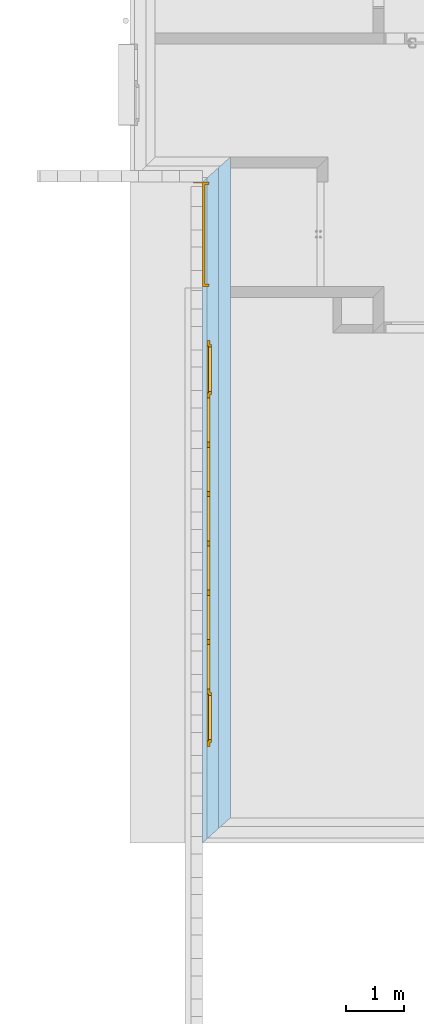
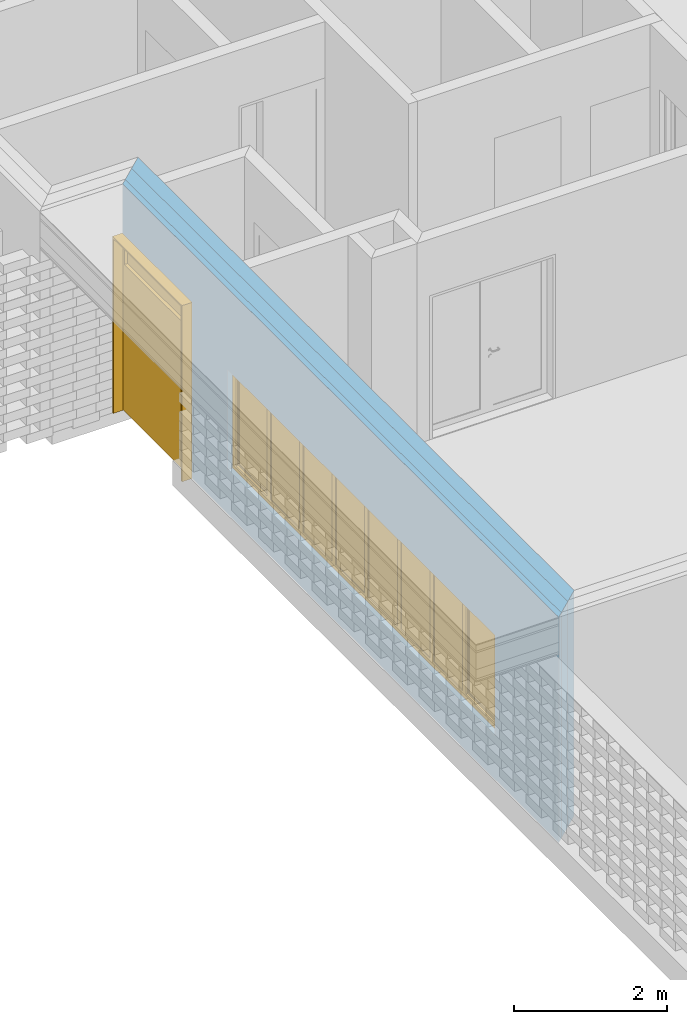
# One storey, part 33 of 62: 1 door, 1 window, 2 openings, 1 element without a shape of its own, plus 3 elements that do not belong to this part.
"""IFC2X3 building model written with IfcOpenShell, lengths in millimetres."""

from ifc_helpers import new_model, entity, si_unit, converted_unit, derived_unit, money_unit, direction, frame, origin_with_axes, origin_2d_with_axis, place, context, subcontext, project, spatial, polyline, rectangle, outline, extrude, open_shell, faceted_brep, surface_model, material, type_object, element, fill, aggregate, save


model = new_model("IFC2X3")

# Units and contexts
model_context = context("Model", 3, precision=0.01, world=origin_with_axes(), true_north=direction((0.0, 1.0)))
body_context = subcontext(model_context, "Body", "Model", "MODEL_VIEW")
ifc_project = project(units=[si_unit("LENGTHUNIT", "METRE", prefix="MILLI"), si_unit("AREAUNIT", "SQUARE_METRE"), si_unit("VOLUMEUNIT", "CUBIC_METRE"), converted_unit("PLANEANGLEUNIT", "DEGREE", entity("IfcPlaneAngleMeasure", 0.0174532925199), si_unit("PLANEANGLEUNIT", "RADIAN"), dimensions=[0, 0, 0, 0, 0, 0, 0]), si_unit("SOLIDANGLEUNIT", "STERADIAN"), money_unit("EUR"), converted_unit("TIMEUNIT", "Year", entity("IfcTimeMeasure", 31556926.0), si_unit("TIMEUNIT", "SECOND"), dimensions=[0, 0, 1, 0, 0, 0, 0]), si_unit("MASSUNIT", "GRAM", prefix="KILO"), si_unit("THERMODYNAMICTEMPERATUREUNIT", "DEGREE_CELSIUS"), si_unit("LUMINOUSINTENSITYUNIT", "LUMEN"), si_unit("ENERGYUNIT", "JOULE", prefix="MEGA"), derived_unit("THERMALCONDUCTANCEUNIT", [(si_unit("POWERUNIT", "WATT"), 1), (si_unit("LENGTHUNIT", "METRE"), -1), (si_unit("THERMODYNAMICTEMPERATUREUNIT", "KELVIN"), -1)]), derived_unit("SPECIFICHEATCAPACITYUNIT", [(si_unit("ENERGYUNIT", "JOULE"), 1), (si_unit("MASSUNIT", "GRAM", prefix="KILO"), -1), (si_unit("THERMODYNAMICTEMPERATUREUNIT", "KELVIN"), -1)]), derived_unit("MASSDENSITYUNIT", [(si_unit("MASSUNIT", "GRAM", prefix="KILO"), 1), (si_unit("VOLUMEUNIT", "CUBIC_METRE"), -1)])], contexts=[model_context])

# Site, building, storey
site_placement = place(None, origin_with_axes())
site = spatial("IfcSite", under=ifc_project, at=site_placement, Name="KIRDE 14, ELVA", CompositionType="ELEMENT")
building_placement = place(site_placement, origin_with_axes())
building = spatial("IfcBuilding", under=site, at=building_placement, Name="PPA ja Päästeameti ühishoone", CompositionType="ELEMENT")
storey_placement = place(building_placement, origin_with_axes())
storey = spatial("IfcBuildingStorey", under=building, at=storey_placement, Name="Esimene korrus", CompositionType="ELEMENT", Elevation=0.0)

# Window
window_style = type_object("IfcWindowStyle", Name="Horizontal Multi-Sash Window 24", ConstructionType="NOTDEFINED", OperationType="USERDEFINED", ParameterTakesPrecedence=False, Sizeable=False)
wall_placement = place(storey_placement, frame((1300.00014324, -2.18278728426e-08, 0.0), z_axis=(0.0, 0.0, 1.0), x_axis=(0.0, 1.0, 0.0)))
opening_1_placement = place(wall_placement, frame((4735.60799175, 0.0, 700.0), z_axis=(0.0, 0.0, 1.0), x_axis=(1.0, 0.0, 0.0)))
window_placement = place(opening_1_placement, frame((3500.0, 0.0, 0.0), z_axis=(0.0, 0.0, 1.0), x_axis=(-1.0, 0.0, 0.0)))
window = element("IfcWindow", 1, at=window_placement, inside=storey, type_object=window_style, Name="A-11", ObjectType="WINDOW", OverallHeight=1600.0, OverallWidth=7000.0, context=body_context, shape_type="SurfaceModel", body=[
    faceted_brep([(6935.0, -350.0, 1510.0), (6935.0, -375.0, 1510.0), (6910.0, -375.0, 1510.0), (6910.0, -400.0, 1510.0), (7000.0, -400.0, 1510.0), (7000.0, -350.0, 1510.0), (6935.0, -350.0, 90.0), (6935.0, -375.0, 90.0), (6910.0, -375.0, 90.0), (6910.0, -400.0, 90.0), (7000.0, -400.0, 90.0), (7000.0, -350.0, 90.0)], [[[0, 1, 2, 3, 4, 5]], [[1, 0, 6, 7]], [[8, 2, 1, 7]], [[2, 8, 9, 3]], [[4, 3, 9, 10]], [[5, 4, 10, 11]], [[6, 0, 5, 11]], [[7, 6, 11, 10, 9, 8]]]),
    faceted_brep([(90.0, -375.0, 1510.0), (65.0, -375.0, 1510.0), (65.0, -350.0, 1510.0), (0.0, -350.0, 1510.0), (0.0, -400.0, 1510.0), (90.0, -400.0, 1510.0), (90.0, -375.0, 90.0), (65.0, -375.0, 90.0), (65.0, -350.0, 90.0), (0.0, -350.0, 90.0), (0.0, -400.0, 90.0), (90.0, -400.0, 90.0)], [[[0, 1, 2, 3, 4, 5]], [[1, 0, 6, 7]], [[8, 2, 1, 7]], [[2, 8, 9, 3]], [[9, 10, 4, 3]], [[10, 11, 5, 4]], [[6, 0, 5, 11]], [[7, 6, 11, 10, 9, 8]]]),
    faceted_brep([(6935.0, -350.0, 1510.0), (6935.0, -350.0, 1535.0), (6073.75, -350.0, 1535.0), (6073.75, -350.0, 1510.0), (6008.75, -350.0, 1510.0), (5247.5, -350.0, 1510.0), (5157.5, -350.0, 1510.0), (4396.25, -350.0, 1510.0), (4306.25, -350.0, 1510.0), (3545.0, -350.0, 1510.0), (3455.0, -350.0, 1510.0), (2693.75, -350.0, 1510.0), (2603.75, -350.0, 1510.0), (1842.5, -350.0, 1510.0), (1752.5, -350.0, 1510.0), (991.25, -350.0, 1510.0), (926.25, -350.0, 1510.0), (926.25, -350.0, 1535.0), (65.0, -350.0, 1535.0), (65.0, -350.0, 1510.0), (0.0, -350.0, 1510.0), (0.0, -350.0, 1600.0), (7000.0, -350.0, 1600.0), (7000.0, -350.0, 1510.0), (6935.0, -375.0, 1510.0), (6935.0, -375.0, 1535.0), (6073.75, -375.0, 1535.0), (6073.75, -375.0, 1510.0), (6098.75, -375.0, 1510.0), (6098.75, -400.0, 1510.0), (6008.75, -400.0, 1510.0), (5247.5, -400.0, 1510.0), (5157.5, -400.0, 1510.0), (4396.25, -400.0, 1510.0), (4306.25, -400.0, 1510.0), (3545.0, -400.0, 1510.0), (3455.0, -400.0, 1510.0), (2693.75, -400.0, 1510.0), (2603.75, -400.0, 1510.0), (1842.5, -400.0, 1510.0), (1752.5, -400.0, 1510.0), (991.25, -400.0, 1510.0), (926.25, -375.0, 1510.0), (901.25, -400.0, 1510.0), (901.25, -375.0, 1510.0), (926.25, -375.0, 1535.0), (65.0, -375.0, 1535.0), (65.0, -375.0, 1510.0), (90.0, -375.0, 1510.0), (90.0, -400.0, 1510.0), (0.0, -400.0, 1510.0), (0.0, -400.0, 1600.0), (7000.0, -400.0, 1600.0), (7000.0, -400.0, 1510.0), (6910.0, -400.0, 1510.0), (6910.0, -375.0, 1510.0)], [[[0, 1, 2, 3, 4, 5, 6, 7, 8, 9, 10, 11, 12, 13, 14, 15, 16, 17, 18, 19, 20, 21, 22, 23]], [[1, 0, 24, 25]], [[2, 1, 25, 26]], [[3, 2, 26, 27]], [[27, 28, 29, 30, 4, 3]], [[4, 30, 31, 5]], [[5, 31, 32, 6]], [[6, 32, 33, 7]], [[7, 33, 34, 8]], [[8, 34, 35, 9]], [[9, 35, 36, 10]], [[10, 36, 37, 11]], [[11, 37, 38, 12]], [[12, 38, 39, 13]], [[13, 39, 40, 14]], [[14, 40, 41, 15]], [[42, 16, 15, 41, 43, 44]], [[17, 16, 42, 45]], [[18, 17, 45, 46]], [[19, 18, 46, 47]], [[47, 48, 49, 50, 20, 19]], [[20, 50, 51, 21]], [[21, 51, 52, 22]], [[22, 52, 53, 23]], [[24, 0, 23, 53, 54, 55]], [[28, 27, 26, 25, 24, 55]], [[28, 55, 54, 29]], [[50, 49, 43, 41, 40, 39, 38, 37, 36, 35, 34, 33, 32, 31, 30, 29, 54, 53, 52, 51]], [[48, 44, 43, 49]], [[48, 47, 46, 45, 42, 44]]]),
    faceted_brep([(6098.75, -375.0, 90.0), (6073.75, -375.0, 90.0), (6073.75, -350.0, 90.0), (6008.75, -350.0, 90.0), (6008.75, -400.0, 90.0), (6098.75, -400.0, 90.0), (6910.0, -375.0, 90.0), (6935.0, -375.0, 90.0), (6935.0, -375.0, 65.0), (6073.75, -375.0, 65.0), (6073.75, -350.0, 65.0), (6935.0, -350.0, 65.0), (6935.0, -350.0, 90.0), (7000.0, -350.0, 90.0), (7000.0, -350.0, 0.0), (0.0, -350.0, 0.0), (0.0, -350.0, 90.0), (65.0, -350.0, 90.0), (65.0, -350.0, 65.0), (926.25, -350.0, 65.0), (926.25, -350.0, 90.0), (991.25, -350.0, 90.0), (1752.5, -350.0, 90.0), (1842.5, -350.0, 90.0), (2603.75, -350.0, 90.0), (2693.75, -350.0, 90.0), (3455.0, -350.0, 90.0), (3545.0, -350.0, 90.0), (4306.25, -350.0, 90.0), (4396.25, -350.0, 90.0), (5157.5, -350.0, 90.0), (5247.5, -350.0, 90.0), (5247.5, -400.0, 90.0), (991.25, -400.0, 90.0), (901.25, -400.0, 90.0), (90.0, -400.0, 90.0), (0.0, -400.0, 90.0), (0.0, -400.0, 0.0), (7000.0, -400.0, 0.0), (7000.0, -400.0, 90.0), (6910.0, -400.0, 90.0), (5157.5, -400.0, 90.0), (4396.25, -400.0, 90.0), (4306.25, -400.0, 90.0), (3545.0, -400.0, 90.0), (3455.0, -400.0, 90.0), (2693.75, -400.0, 90.0), (2603.75, -400.0, 90.0), (1842.5, -400.0, 90.0), (1752.5, -400.0, 90.0), (90.0, -375.0, 90.0), (65.0, -375.0, 90.0), (65.0, -375.0, 65.0), (926.25, -375.0, 65.0), (926.25, -375.0, 90.0), (901.25, -375.0, 90.0)], [[[0, 1, 2, 3, 4, 5]], [[1, 0, 6, 7, 8, 9]], [[10, 2, 1, 9]], [[11, 12, 13, 14, 15, 16, 17, 18, 19, 20, 21, 22, 23, 24, 25, 26, 27, 28, 29, 30, 31, 3, 2, 10]], [[31, 32, 4, 3]], [[33, 34, 35, 36, 37, 38, 39, 40, 5, 4, 32, 41, 42, 43, 44, 45, 46, 47, 48, 49]], [[6, 0, 5, 40]], [[7, 6, 40, 39, 13, 12]], [[7, 12, 11, 8]], [[11, 10, 9, 8]], [[13, 39, 38, 14]], [[14, 38, 37, 15]], [[15, 37, 36, 16]], [[50, 51, 17, 16, 36, 35]], [[18, 17, 51, 52]], [[19, 18, 52, 53]], [[54, 20, 19, 53]], [[54, 55, 34, 33, 21, 20]], [[21, 33, 49, 22]], [[22, 49, 48, 23]], [[23, 48, 47, 24]], [[24, 47, 46, 25]], [[25, 46, 45, 26]], [[26, 45, 44, 27]], [[27, 44, 43, 28]], [[28, 43, 42, 29]], [[29, 42, 41, 30]], [[30, 41, 32, 31]], [[55, 50, 35, 34]], [[51, 50, 55, 54, 53, 52]]]),
    faceted_brep([(6098.75, -375.0, 1510.0), (6073.75, -375.0, 1510.0), (6073.75, -350.0, 1510.0), (6008.75, -350.0, 1510.0), (6008.75, -400.0, 1510.0), (6098.75, -400.0, 1510.0), (6098.75, -375.0, 90.0), (6073.75, -375.0, 90.0), (6073.75, -350.0, 90.0), (6008.75, -350.0, 90.0), (6008.75, -400.0, 90.0), (6098.75, -400.0, 90.0)], [[[0, 1, 2, 3, 4, 5]], [[1, 0, 6, 7]], [[8, 2, 1, 7]], [[2, 8, 9, 3]], [[9, 10, 4, 3]], [[4, 10, 11, 5]], [[6, 0, 5, 11]], [[7, 6, 11, 10, 9, 8]]]),
    faceted_brep([(5157.5, -350.0, 90.0), (5157.5, -400.0, 90.0), (5157.5, -400.0, 1510.0), (5157.5, -350.0, 1510.0), (5247.5, -350.0, 90.0), (5247.5, -400.0, 90.0), (5247.5, -400.0, 1510.0), (5247.5, -350.0, 1510.0)], [[[0, 1, 2, 3]], [[4, 5, 1, 0]], [[2, 1, 5, 6]], [[3, 2, 6, 7]], [[4, 0, 3, 7]], [[7, 6, 5, 4]]]),
    faceted_brep([(4306.25, -350.0, 90.0), (4306.25, -400.0, 90.0), (4306.25, -400.0, 1510.0), (4306.25, -350.0, 1510.0), (4396.25, -350.0, 90.0), (4396.25, -400.0, 90.0), (4396.25, -400.0, 1510.0), (4396.25, -350.0, 1510.0)], [[[0, 1, 2, 3]], [[4, 5, 1, 0]], [[2, 1, 5, 6]], [[3, 2, 6, 7]], [[4, 0, 3, 7]], [[7, 6, 5, 4]]]),
    faceted_brep([(3455.0, -350.0, 90.0), (3455.0, -400.0, 90.0), (3455.0, -400.0, 1510.0), (3455.0, -350.0, 1510.0), (3545.0, -350.0, 90.0), (3545.0, -400.0, 90.0), (3545.0, -400.0, 1510.0), (3545.0, -350.0, 1510.0)], [[[0, 1, 2, 3]], [[4, 5, 1, 0]], [[2, 1, 5, 6]], [[3, 2, 6, 7]], [[4, 0, 3, 7]], [[7, 6, 5, 4]]]),
    faceted_brep([(2603.75, -350.0, 90.0), (2603.75, -400.0, 90.0), (2603.75, -400.0, 1510.0), (2603.75, -350.0, 1510.0), (2693.75, -350.0, 90.0), (2693.75, -400.0, 90.0), (2693.75, -400.0, 1510.0), (2693.75, -350.0, 1510.0)], [[[0, 1, 2, 3]], [[4, 5, 1, 0]], [[2, 1, 5, 6]], [[3, 2, 6, 7]], [[4, 0, 3, 7]], [[7, 6, 5, 4]]]),
    faceted_brep([(1752.5, -350.0, 90.0), (1752.5, -400.0, 90.0), (1752.5, -400.0, 1510.0), (1752.5, -350.0, 1510.0), (1842.5, -350.0, 90.0), (1842.5, -400.0, 90.0), (1842.5, -400.0, 1510.0), (1842.5, -350.0, 1510.0)], [[[0, 1, 2, 3]], [[4, 5, 1, 0]], [[2, 1, 5, 6]], [[3, 2, 6, 7]], [[4, 0, 3, 7]], [[7, 6, 5, 4]]]),
    faceted_brep([(926.25, -350.0, 1510.0), (926.25, -375.0, 1510.0), (901.25, -375.0, 1510.0), (901.25, -400.0, 1510.0), (991.25, -400.0, 1510.0), (991.25, -350.0, 1510.0), (926.25, -350.0, 90.0), (926.25, -375.0, 90.0), (901.25, -375.0, 90.0), (901.25, -400.0, 90.0), (991.25, -400.0, 90.0), (991.25, -350.0, 90.0)], [[[0, 1, 2, 3, 4, 5]], [[1, 0, 6, 7]], [[8, 2, 1, 7]], [[2, 8, 9, 3]], [[3, 9, 10, 4]], [[5, 4, 10, 11]], [[6, 0, 5, 11]], [[7, 6, 11, 10, 9, 8]]]),
    faceted_brep([(6885.0, -375.0, 1485.0), (6935.0, -375.0, 1485.0), (6935.0, -325.0, 1485.0), (6885.0, -325.0, 1485.0), (6885.0, -375.0, 115.0), (6935.0, -375.0, 115.0), (6935.0, -325.0, 115.0), (6885.0, -325.0, 115.0)], [[[0, 1, 2, 3]], [[0, 4, 5, 1]], [[1, 5, 6, 2]], [[3, 2, 6, 7]], [[4, 0, 3, 7]], [[5, 4, 7, 6]]]),
    faceted_brep([(6123.75, -375.0, 115.0), (6073.75, -375.0, 115.0), (6073.75, -325.0, 115.0), (6123.75, -325.0, 115.0), (6123.75, -375.0, 1485.0), (6073.75, -375.0, 1485.0), (6073.75, -325.0, 1485.0), (6123.75, -325.0, 1485.0)], [[[0, 1, 2, 3]], [[0, 4, 5, 1]], [[1, 5, 6, 2]], [[3, 2, 6, 7]], [[4, 0, 3, 7]], [[5, 4, 7, 6]]]),
    faceted_brep([(6073.75, -375.0, 65.0), (6073.75, -375.0, 115.0), (6073.75, -325.0, 115.0), (6073.75, -325.0, 65.0), (6935.0, -375.0, 65.0), (6935.0, -375.0, 115.0), (6885.0, -375.0, 115.0), (6123.75, -375.0, 115.0), (6123.75, -325.0, 115.0), (6885.0, -325.0, 115.0), (6935.0, -325.0, 115.0), (6935.0, -325.0, 65.0)], [[[0, 1, 2, 3]], [[0, 4, 5, 6, 7, 1]], [[1, 7, 8, 2]], [[3, 2, 8, 9, 10, 11]], [[4, 0, 3, 11]], [[5, 4, 11, 10]], [[6, 5, 10, 9]], [[7, 6, 9, 8]]]),
    faceted_brep([(6935.0, -375.0, 1535.0), (6935.0, -375.0, 1485.0), (6935.0, -325.0, 1485.0), (6935.0, -325.0, 1535.0), (6073.75, -375.0, 1535.0), (6073.75, -375.0, 1485.0), (6123.75, -375.0, 1485.0), (6885.0, -375.0, 1485.0), (6885.0, -325.0, 1485.0), (6123.75, -325.0, 1485.0), (6073.75, -325.0, 1485.0), (6073.75, -325.0, 1535.0)], [[[0, 1, 2, 3]], [[0, 4, 5, 6, 7, 1]], [[1, 7, 8, 2]], [[3, 2, 8, 9, 10, 11]], [[4, 0, 3, 11]], [[5, 4, 11, 10]], [[6, 5, 10, 9]], [[7, 6, 9, 8]]]),
    surface_model("IfcShellBasedSurfaceModel", [(6885.0, -360.0, 115.0), (6885.0, -360.0, 1485.0), (6123.75, -360.0, 1485.0), (6123.75, -360.0, 115.0)], [open_shell([[[0, 1, 2, 3]]])]),
    surface_model("IfcShellBasedSurfaceModel", [(6885.0, -340.0, 115.0), (6123.75, -340.0, 115.0), (6123.75, -340.0, 1485.0), (6885.0, -340.0, 1485.0)], [open_shell([[[0, 1, 2, 3]]])]),
    surface_model("IfcShellBasedSurfaceModel", [(6008.75, -385.0, 90.0), (6008.75, -385.0, 1510.0), (5247.5, -385.0, 1510.0), (5247.5, -385.0, 90.0)], [open_shell([[[0, 1, 2, 3]]])]),
    surface_model("IfcShellBasedSurfaceModel", [(6008.75, -365.0, 90.0), (5247.5, -365.0, 90.0), (5247.5, -365.0, 1510.0), (6008.75, -365.0, 1510.0)], [open_shell([[[0, 1, 2, 3]]])]),
    surface_model("IfcShellBasedSurfaceModel", [(5157.5, -385.0, 90.0), (5157.5, -385.0, 1510.0), (4396.25, -385.0, 1510.0), (4396.25, -385.0, 90.0)], [open_shell([[[0, 1, 2, 3]]])]),
    surface_model("IfcShellBasedSurfaceModel", [(5157.5, -365.0, 90.0), (4396.25, -365.0, 90.0), (4396.25, -365.0, 1510.0), (5157.5, -365.0, 1510.0)], [open_shell([[[0, 1, 2, 3]]])]),
    surface_model("IfcShellBasedSurfaceModel", [(4306.25, -385.0, 90.0), (4306.25, -385.0, 1510.0), (3545.0, -385.0, 1510.0), (3545.0, -385.0, 90.0)], [open_shell([[[0, 1, 2, 3]]])]),
    surface_model("IfcShellBasedSurfaceModel", [(4306.25, -365.0, 90.0), (3545.0, -365.0, 90.0), (3545.0, -365.0, 1510.0), (4306.25, -365.0, 1510.0)], [open_shell([[[0, 1, 2, 3]]])]),
    surface_model("IfcShellBasedSurfaceModel", [(3455.0, -385.0, 90.0), (3455.0, -385.0, 1510.0), (2693.75, -385.0, 1510.0), (2693.75, -385.0, 90.0)], [open_shell([[[0, 1, 2, 3]]])]),
    surface_model("IfcShellBasedSurfaceModel", [(3455.0, -365.0, 90.0), (2693.75, -365.0, 90.0), (2693.75, -365.0, 1510.0), (3455.0, -365.0, 1510.0)], [open_shell([[[0, 1, 2, 3]]])]),
    surface_model("IfcShellBasedSurfaceModel", [(2603.75, -385.0, 90.0), (2603.75, -385.0, 1510.0), (1842.5, -385.0, 1510.0), (1842.5, -385.0, 90.0)], [open_shell([[[0, 1, 2, 3]]])]),
    surface_model("IfcShellBasedSurfaceModel", [(2603.75, -365.0, 90.0), (1842.5, -365.0, 90.0), (1842.5, -365.0, 1510.0), (2603.75, -365.0, 1510.0)], [open_shell([[[0, 1, 2, 3]]])]),
    surface_model("IfcShellBasedSurfaceModel", [(1752.5, -385.0, 90.0), (1752.5, -385.0, 1510.0), (991.25, -385.0, 1510.0), (991.25, -385.0, 90.0)], [open_shell([[[0, 1, 2, 3]]])]),
    surface_model("IfcShellBasedSurfaceModel", [(1752.5, -365.0, 90.0), (991.25, -365.0, 90.0), (991.25, -365.0, 1510.0), (1752.5, -365.0, 1510.0)], [open_shell([[[0, 1, 2, 3]]])]),
    faceted_brep([(876.25, -375.0, 1485.0), (926.25, -375.0, 1485.0), (926.25, -325.0, 1485.0), (876.25, -325.0, 1485.0), (876.25, -375.0, 115.0), (926.25, -375.0, 115.0), (926.25, -325.0, 115.0), (876.25, -325.0, 115.0)], [[[0, 1, 2, 3]], [[0, 4, 5, 1]], [[1, 5, 6, 2]], [[3, 2, 6, 7]], [[4, 0, 3, 7]], [[5, 4, 7, 6]]]),
    faceted_brep([(115.0, -375.0, 115.0), (65.0, -375.0, 115.0), (65.0, -325.0, 115.0), (115.0, -325.0, 115.0), (115.0, -375.0, 1485.0), (65.0, -375.0, 1485.0), (65.0, -325.0, 1485.0), (115.0, -325.0, 1485.0)], [[[0, 1, 2, 3]], [[0, 4, 5, 1]], [[1, 5, 6, 2]], [[3, 2, 6, 7]], [[4, 0, 3, 7]], [[5, 4, 7, 6]]]),
    faceted_brep([(65.0, -375.0, 65.0), (65.0, -375.0, 115.0), (65.0, -325.0, 115.0), (65.0, -325.0, 65.0), (926.25, -375.0, 65.0), (926.25, -375.0, 115.0), (876.25, -375.0, 115.0), (115.0, -375.0, 115.0), (115.0, -325.0, 115.0), (876.25, -325.0, 115.0), (926.25, -325.0, 115.0), (926.25, -325.0, 65.0)], [[[0, 1, 2, 3]], [[0, 4, 5, 6, 7, 1]], [[1, 7, 8, 2]], [[3, 2, 8, 9, 10, 11]], [[4, 0, 3, 11]], [[5, 4, 11, 10]], [[6, 5, 10, 9]], [[7, 6, 9, 8]]]),
    faceted_brep([(926.25, -375.0, 1535.0), (926.25, -375.0, 1485.0), (926.25, -325.0, 1485.0), (926.25, -325.0, 1535.0), (65.0, -375.0, 1535.0), (65.0, -375.0, 1485.0), (115.0, -375.0, 1485.0), (876.25, -375.0, 1485.0), (876.25, -325.0, 1485.0), (115.0, -325.0, 1485.0), (65.0, -325.0, 1485.0), (65.0, -325.0, 1535.0)], [[[0, 1, 2, 3]], [[0, 4, 5, 6, 7, 1]], [[1, 7, 8, 2]], [[3, 2, 8, 9, 10, 11]], [[4, 0, 3, 11]], [[5, 4, 11, 10]], [[6, 5, 10, 9]], [[7, 6, 9, 8]]]),
    surface_model("IfcShellBasedSurfaceModel", [(876.25, -360.0, 115.0), (876.25, -360.0, 1485.0), (115.0, -360.0, 1485.0), (115.0, -360.0, 115.0)], [open_shell([[[0, 1, 2, 3]]])]),
    surface_model("IfcShellBasedSurfaceModel", [(876.25, -340.0, 115.0), (115.0, -340.0, 115.0), (115.0, -340.0, 1485.0), (876.25, -340.0, 1485.0)], [open_shell([[[0, 1, 2, 3]]])]),
])

# Door
door_style = type_object("IfcDoorStyle", Name="Double Door with Transom 24", ConstructionType="NOTDEFINED", OperationType="DOUBLE_DOOR_SINGLE_SWING", ParameterTakesPrecedence=False, Sizeable=False)
opening_2_placement = place(wall_placement, frame((10068.4748518, 0.0, 0.0), z_axis=(0.0, 0.0, 1.0), x_axis=(1.0, 0.0, 0.0)))
door_placement = place(opening_2_placement, frame((-900.0, 0.0, 0.0), z_axis=(0.0, 0.0, 1.0), x_axis=(1.0, 0.0, 0.0)))
door = element("IfcDoor", 2, at=door_placement, inside=storey, type_object=door_style, Name="VU-01", ObjectType="DOOR", OverallHeight=2800.0, OverallWidth=1800.0, context=body_context, shape_type="SurfaceModel", body=[
    faceted_brep([(1812.0, 630.0, 0.0), (1812.0, 480.0, 0.0), (1787.0, 480.0, 0.0), (1787.0, 630.0, 0.0), (1812.0, 630.0, 2812.0), (1812.0, 480.0, 2812.0), (1787.0, 480.0, 2787.0), (1787.0, 630.0, 2787.0)], [[[0, 1, 2, 3]], [[4, 5, 1, 0]], [[1, 5, 6, 2]], [[3, 2, 6, 7]], [[0, 3, 7, 4]], [[7, 6, 5, 4]]]),
    faceted_brep([(-12.0, 630.0, 2812.0), (-12.0, 480.0, 2812.0), (13.0, 480.0, 2787.0), (13.0, 630.0, 2787.0), (-12.0, 630.0, 0.0), (-12.0, 480.0, 0.0), (13.0, 480.0, 0.0), (13.0, 630.0, 0.0)], [[[0, 1, 2, 3]], [[4, 5, 1, 0]], [[1, 5, 6, 2]], [[3, 2, 6, 7]], [[0, 3, 7, 4]], [[7, 6, 5, 4]]]),
    faceted_brep([(1812.0, 630.0, 2812.0), (1812.0, 480.0, 2812.0), (1787.0, 480.0, 2787.0), (1787.0, 630.0, 2787.0), (-12.0, 630.0, 2812.0), (-12.0, 480.0, 2812.0), (13.0, 480.0, 2787.0), (13.0, 630.0, 2787.0)], [[[0, 1, 2, 3]], [[4, 5, 1, 0]], [[1, 5, 6, 2]], [[3, 2, 6, 7]], [[0, 3, 7, 4]], [[7, 6, 5, 4]]]),
    faceted_brep([(1760.0, 440.0, 2312.0), (1760.0, 440.0, 0.0), (1760.0, 365.0, 0.0), (1760.0, 365.0, 2300.0), (1760.0, 365.0, 2340.0), (1760.0, 480.0, 2340.0), (1760.0, 480.0, 2312.0), (1772.0, 440.0, 2312.0), (1772.0, 440.0, 0.0), (1772.0, 480.0, 0.0), (1800.0, 480.0, 0.0), (1800.0, 365.0, 0.0), (1800.0, 365.0, 2760.0), (1760.0, 365.0, 2760.0), (1760.0, 480.0, 2760.0), (1772.0, 480.0, 2312.0), (1800.0, 480.0, 2760.0)], [[[0, 1, 2, 3, 4, 5, 6]], [[0, 7, 8, 1]], [[8, 9, 10, 11, 2, 1]], [[4, 3, 2, 11, 12, 13]], [[14, 5, 4, 13]], [[15, 6, 5, 14, 16, 10, 9]], [[6, 15, 7, 0]], [[9, 8, 7, 15]], [[10, 16, 12, 11]], [[16, 14, 13, 12]]]),
    faceted_brep([(28.0, 480.0, 2312.0), (28.0, 480.0, 0.0), (0.0, 480.0, 0.0), (0.0, 480.0, 2760.0), (40.0, 480.0, 2760.0), (40.0, 480.0, 2340.0), (40.0, 480.0, 2312.0), (28.0, 440.0, 2312.0), (28.0, 440.0, 0.0), (40.0, 440.0, 0.0), (40.0, 365.0, 0.0), (0.0, 365.0, 0.0), (0.0, 365.0, 2760.0), (40.0, 365.0, 2760.0), (40.0, 365.0, 2340.0), (40.0, 440.0, 2312.0), (40.0, 365.0, 2300.0)], [[[0, 1, 2, 3, 4, 5, 6]], [[0, 7, 8, 1]], [[8, 9, 10, 11, 2, 1]], [[3, 2, 11, 12]], [[4, 3, 12, 13]], [[5, 4, 13, 14]], [[15, 6, 5, 14, 16, 10, 9]], [[6, 15, 7, 0]], [[8, 7, 15, 9]], [[14, 13, 12, 11, 10, 16]]]),
    faceted_brep([(1800.0, 480.0, 2800.0), (1800.0, 365.0, 2800.0), (1800.0, 365.0, 2760.0), (1800.0, 480.0, 2760.0), (0.0, 480.0, 2800.0), (0.0, 365.0, 2800.0), (0.0, 365.0, 2760.0), (40.0, 365.0, 2760.0), (1760.0, 365.0, 2760.0), (1760.0, 480.0, 2760.0), (40.0, 480.0, 2760.0), (0.0, 480.0, 2760.0)], [[[0, 1, 2, 3]], [[4, 5, 1, 0]], [[1, 5, 6, 7, 8, 2]], [[3, 2, 8, 9]], [[0, 3, 9, 10, 11, 4]], [[11, 6, 5, 4]], [[10, 7, 6, 11]], [[9, 8, 7, 10]]]),
    faceted_brep([(40.0, 440.0, 2312.0), (40.0, 440.0, 2300.0), (40.0, 365.0, 2300.0), (40.0, 365.0, 2340.0), (40.0, 480.0, 2340.0), (40.0, 480.0, 2312.0), (1760.0, 440.0, 2312.0), (1760.0, 440.0, 2300.0), (1760.0, 365.0, 2300.0), (1760.0, 365.0, 2340.0), (1760.0, 480.0, 2340.0), (1760.0, 480.0, 2312.0)], [[[0, 1, 2, 3, 4, 5]], [[0, 6, 7, 1]], [[7, 8, 2, 1]], [[8, 9, 3, 2]], [[10, 4, 3, 9]], [[5, 4, 10, 11]], [[5, 11, 6, 0]], [[6, 11, 10, 9, 8, 7]]]),
    faceted_brep([(28.0, 480.0, 0.0), (900.0, 480.0, 0.0), (900.0, 440.0, 0.0), (28.0, 440.0, 0.0), (28.0, 480.0, 2312.0), (900.0, 480.0, 2312.0), (900.0, 440.0, 2312.0), (28.0, 440.0, 2312.0)], [[[0, 1, 2, 3]], [[0, 4, 5, 1]], [[1, 5, 6, 2]], [[3, 2, 6, 7]], [[4, 0, 3, 7]], [[5, 4, 7, 6]]]),
    faceted_brep([(1772.0, 480.0, 0.0), (1772.0, 440.0, 0.0), (900.0, 440.0, 0.0), (900.0, 480.0, 0.0), (1772.0, 480.0, 2312.0), (1772.0, 440.0, 2312.0), (900.0, 440.0, 2312.0), (900.0, 480.0, 2312.0)], [[[0, 1, 2, 3]], [[4, 5, 1, 0]], [[1, 5, 6, 2]], [[3, 2, 6, 7]], [[0, 3, 7, 4]], [[7, 6, 5, 4]]]),
    surface_model("IfcShellBasedSurfaceModel", [(1760.0, 428.5, 2340.0), (40.0, 428.5, 2340.0), (40.0, 428.5, 2760.0), (1760.0, 428.5, 2760.0)], [open_shell([[[0, 1, 2, 3]]])]),
    surface_model("IfcShellBasedSurfaceModel", [(1760.0, 416.5, 2340.0), (1760.0, 416.5, 2760.0), (40.0, 416.5, 2760.0), (40.0, 416.5, 2340.0)], [open_shell([[[0, 1, 2, 3]]])]),
])

# Wall, opening
wall_type = type_object("IfcWallType", Name="VS-02 480", PredefinedType="NOTDEFINED")
wall = element("IfcWall", 3, at=wall_placement, inside=storey, type_object=wall_type, Name="VS-02")
opening_1 = element("IfcOpeningElement", 4, at=opening_1_placement, cuts=wall, Name="A-11", context=body_context, shape_type="SweptSolid", body=[
    extrude(rectangle(XDim=7000.0, YDim=1600.0, at=origin_2d_with_axis()), frame((0.0, 400.0, 800.0), z_axis=(0.0, -1.0, 0.0), x_axis=(1.0, 0.0, 0.0)), (0.0, 0.0, 1.0), 880.0),
    extrude(rectangle(XDim=7000.0, YDim=1600.0, at=origin_2d_with_axis()), frame((0.0, 400.0, 800.0), z_axis=(0.0, 1.0, 0.0), x_axis=(1.0, 0.0, 0.0)), (0.0, 0.0, 1.0), 560.0),
])

fill(opening_1, window)

# Opening
opening_2 = element("IfcOpeningElement", 5, at=opening_2_placement, cuts=wall, Name="VU-01", context=body_context, shape_type="SweptSolid", body=[
    extrude(rectangle(XDim=1800.0, YDim=2800.0, at=origin_2d_with_axis()), frame((0.0, -480.0, 1400.0), z_axis=(0.0, -1.0, 0.0), x_axis=(-1.0, 0.0, 0.0)), (0.0, 0.0, -1.0), 1440.0),
    extrude(rectangle(XDim=1824.0, YDim=2812.0, at=origin_2d_with_axis()), frame((0.0, 480.0, 1406.0), z_axis=(0.0, 1.0, 0.0), x_axis=(-1.0, 0.0, 0.0)), (0.0, 0.0, 1.0), 480.0),
])

fill(opening_2, door)

# Building element part
ifc_material_1 = material(Name="Raudbetoon Paneelid (2)")
building_element_part_1_placement = place(wall_placement, origin_with_axes())
building_element_part_1 = element("IfcBuildingElementPart", 6, at=building_element_part_1_placement, material=ifc_material_1, Name="Raudbetoon Paneelid (2)", context=body_context, shape_type="SweptSolid", body=[
    extrude(outline(polyline([(0.0, 0.0), (11400.396614, 0.0), (11221.2300073, 200.0), (-179.166666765, 200.0), (0.0, 0.0)])), origin_with_axes(), (0.0, 0.0, 1.0), 3600.0),
])

ifc_material_2 = material(Name="Vahtpolüstüreen (4)")
building_element_part_2_placement = place(wall_placement, origin_with_axes())
building_element_part_2 = element("IfcBuildingElementPart", 7, at=building_element_part_2_placement, material=ifc_material_2, Name="Vahtpolüstüreen (4)", context=body_context, shape_type="SweptSolid", body=[
    extrude(outline(polyline([(-179.166666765, 200.0), (11221.2300073, 200.0), (11042.0634005, 400.0), (-358.333333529, 400.0), (-179.166666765, 200.0)])), origin_with_axes(), (0.0, 0.0, 1.0), 3600.0),
])

building_element_part_3_placement = place(wall_placement, origin_with_axes())
building_element_part_3 = element("IfcBuildingElementPart", 8, at=building_element_part_3_placement, material=ifc_material_1, Name="Raudbetoon Paneelid (2)", context=body_context, shape_type="SweptSolid", body=[
    extrude(outline(polyline([(-358.333333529, 400.0), (11042.0634005, 400.0), (10970.3967578, 480.0), (-430.000000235, 480.0), (-358.333333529, 400.0)])), origin_with_axes(), (0.0, 0.0, 1.0), 3600.0),
])

aggregate(wall, [building_element_part_1, building_element_part_2, building_element_part_3])

save(model, "model.ifc")
